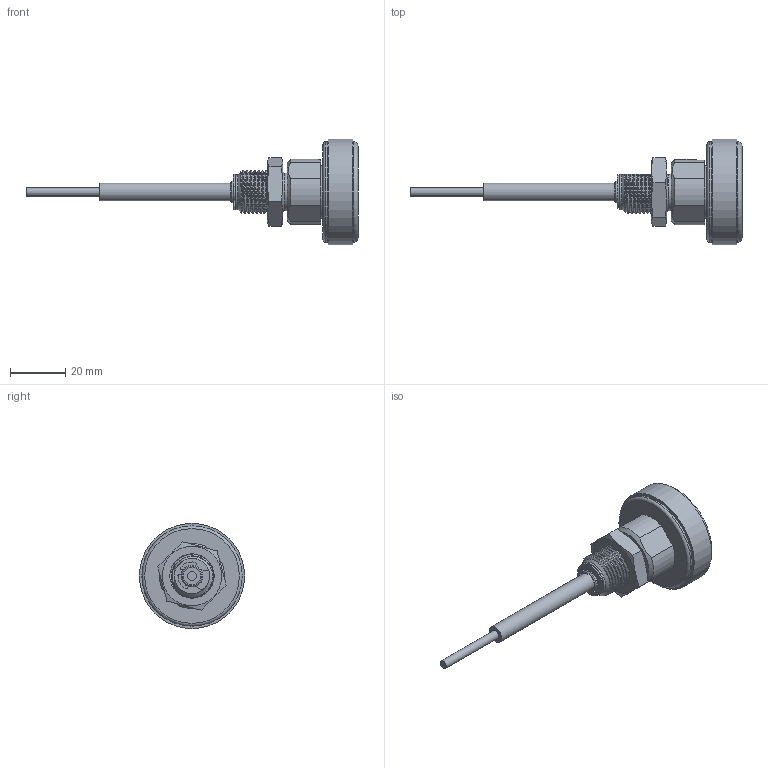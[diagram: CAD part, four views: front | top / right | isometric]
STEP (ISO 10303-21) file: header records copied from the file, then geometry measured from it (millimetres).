
FILE_DESCRIPTION(/* description */ ('Unknown'),/* implementation_level */ '2;1');
FILE_NAME(/* name */ 'TILTON 72-408 BRAKE BIAS ADJUSTER',/* time_stamp */ '2017-02-13T08:14:57-08:00',/* author */ ('Unknown'),/* organization */ ('Unknown'),/* preprocessor_version */ 'ST-DEVELOPER v16.7',/* originating_system */ 'DEX',/* authorisation */ $);
FILE_SCHEMA (('AUTOMOTIVE_DESIGN {1 0 10303 214 3 1 1}'));
Length unit declared in the file: millimetre
Products named in the file (1): 72-408
Bounding box: 120.19 x 38.1 x 38.1 mm (x, y, z)
Volume: 17121.7 mm3; surface area: 15004.5 mm2
Topology: 3 solids, 4 shells, 229 faces, 637 edges, 419 vertices
Faces by surface type: plane 107, cylinder 79, bspline 26, cone 14, torus 3
Full cylindrical faces by diameter (mm): 3.175 x1, 3.861 x1, 4.851 x1, 6.35 x1, 6.388 x1, 7.493 x1, 7.874 x1, 7.938 x1, 9.474 x1, 9.55 x1, 12.7 x1, 18.974 x1, 19.05 x1, 30.48 x1, 34.798 x1, 34.925 x1, 36.322 x2, 38.1 x1
Entity records: 20141 total; most frequent: CARTESIAN_POINT 13179, ORIENTED_EDGE 1178, DIRECTION 985, EDGE_CURVE 589, VERTEX_POINT 406, AXIS2_PLACEMENT_3D 347, LINE 291, VECTOR 291
